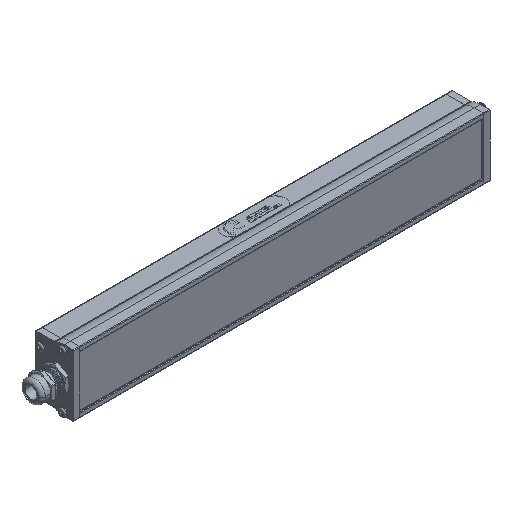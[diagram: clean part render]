
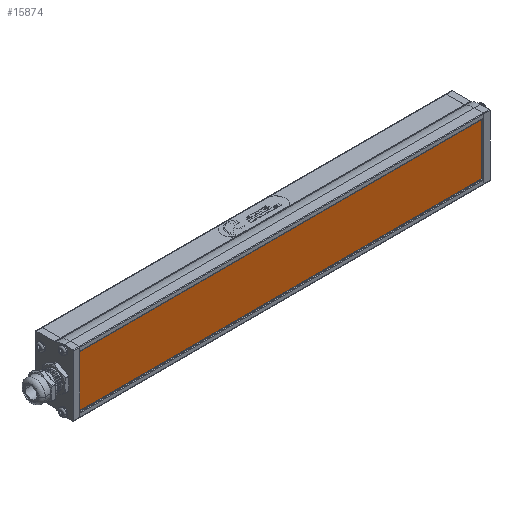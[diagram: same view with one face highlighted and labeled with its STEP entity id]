
A CAD part, isometric view. The second image highlights one B-rep face of the part: STEP entity #15874.
In plain terms, the highlighted planar face has unit normal (0, -1, 0) as drawn and (0, 1, 0) by its records, which use the part's own axes.
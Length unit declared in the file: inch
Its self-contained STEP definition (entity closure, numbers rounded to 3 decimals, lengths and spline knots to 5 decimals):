
#65 = DIRECTION ( 'NONE',  ( 0., 1., 0. ) ) ;
#196 = CARTESIAN_POINT ( 'NONE',  ( 4.135, 0.03, -0.586 ) ) ;
#1045 = EDGE_CURVE ( 'NONE', #24830, #23898, #6538, .T. ) ;
#1098 = CARTESIAN_POINT ( 'NONE',  ( -4.135, 0.03, -0.586 ) ) ;
#2040 = VERTEX_POINT ( 'NONE', #1098 ) ;
#2771 = PLANE ( 'NONE',  #26340 ) ;
#3876 = EDGE_CURVE ( 'NONE', #23898, #14387, #25967, .T. ) ;
#4402 = VECTOR ( 'NONE', #15148, 39.37008 ) ;
#5180 = DIRECTION ( 'NONE',  ( 0., 0., 1. ) ) ;
#6538 = LINE ( 'NONE', #28188, #19098 ) ;
#9924 = CARTESIAN_POINT ( 'NONE',  ( -4.135, 0.03, -0.586 ) ) ;
#10955 = ORIENTED_EDGE ( 'NONE', *, *, #11978, .T. ) ;
#11340 = FACE_OUTER_BOUND ( 'NONE', #12678, .T. ) ;
#11397 = CARTESIAN_POINT ( 'NONE',  ( 4.135, 0.03, -0.586 ) ) ;
#11978 = EDGE_CURVE ( 'NONE', #2040, #24830, #26350, .T. ) ;
#12678 = EDGE_LOOP ( 'NONE', ( #10955, #28203, #17975, #27033 ) ) ;
#12700 = CARTESIAN_POINT ( 'NONE',  ( -4.135, 0.03, 0.586 ) ) ;
#14084 = LINE ( 'NONE', #9924, #29832 ) ;
#14387 = VERTEX_POINT ( 'NONE', #11397 ) ;
#15148 = DIRECTION ( 'NONE',  ( 0., 0., -1. ) ) ;
#15874 = ADVANCED_FACE ( 'NONE', ( #11340 ), #2771, .T. ) ;
#16380 = CARTESIAN_POINT ( 'NONE',  ( 4.135, 0.03, 0.586 ) ) ;
#17975 = ORIENTED_EDGE ( 'NONE', *, *, #3876, .T. ) ;
#19098 = VECTOR ( 'NONE', #20692, 39.37008 ) ;
#19850 = DIRECTION ( 'NONE',  ( -1., 0., 0. ) ) ;
#20066 = VECTOR ( 'NONE', #22958, 39.37008 ) ;
#20692 = DIRECTION ( 'NONE',  ( 1., 0., 0. ) ) ;
#21721 = EDGE_CURVE ( 'NONE', #14387, #2040, #14084, .T. ) ;
#22958 = DIRECTION ( 'NONE',  ( 0., 0., 1. ) ) ;
#23898 = VERTEX_POINT ( 'NONE', #16380 ) ;
#24830 = VERTEX_POINT ( 'NONE', #12700 ) ;
#25967 = LINE ( 'NONE', #196, #4402 ) ;
#26340 = AXIS2_PLACEMENT_3D ( 'NONE', #29862, #65, #5180 ) ;
#26350 = LINE ( 'NONE', #28236, #20066 ) ;
#27033 = ORIENTED_EDGE ( 'NONE', *, *, #21721, .T. ) ;
#28188 = CARTESIAN_POINT ( 'NONE',  ( -4.135, 0.03, 0.586 ) ) ;
#28203 = ORIENTED_EDGE ( 'NONE', *, *, #1045, .T. ) ;
#28236 = CARTESIAN_POINT ( 'NONE',  ( -4.135, 0.03, -0.586 ) ) ;
#29832 = VECTOR ( 'NONE', #19850, 39.37008 ) ;
#29862 = CARTESIAN_POINT ( 'NONE',  ( -4.135, 0.03, 0.586 ) ) ;
